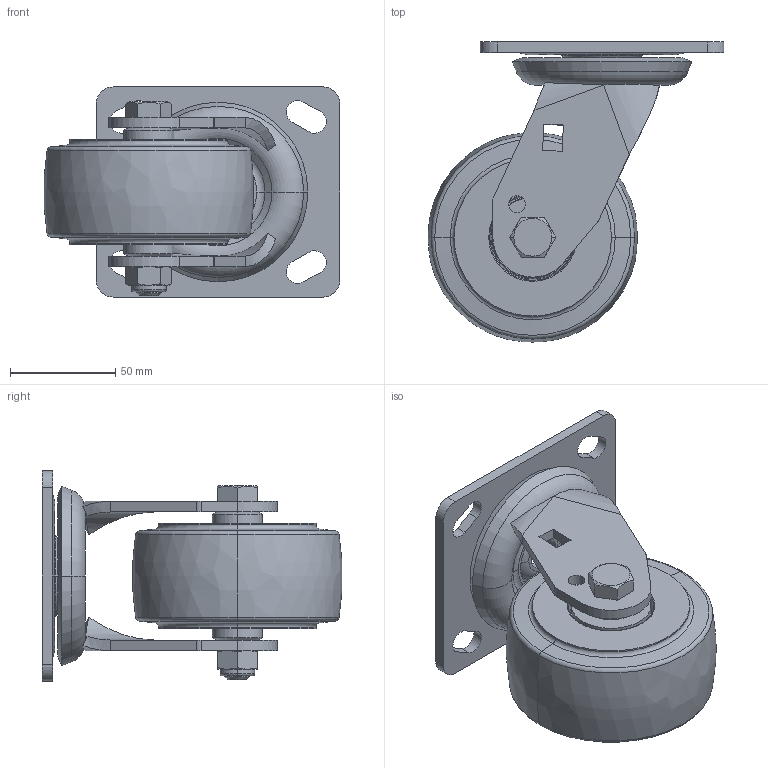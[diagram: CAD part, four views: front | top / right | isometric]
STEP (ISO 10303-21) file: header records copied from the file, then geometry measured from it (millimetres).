
FILE_DESCRIPTION((''),'2;1');
FILE_NAME('S75714_ASM','2026-07-17T',('Lenovo'),(''),'PRO/ENGINEER BY PARAMETRIC TECHNOLOGY CORPORATION, 2010280','PRO/ENGINEER BY PARAMETRIC TECHNOLOGY CORPORATION, 2010280','');
FILE_SCHEMA(('CONFIG_CONTROL_DESIGN'));
Length unit declared in the file: millimetre
Products named in the file (11): S7504-353; S7570-201; S7500-211; 734-986; 6203; 700-67; 700-54; 734-86_ASM; 700-33; 700-34; S75714_ASM
Assembly tree (12 placements, depth 3):
  S75714_ASM
    S7504-353
    S7570-201
    S7500-211
    734-86_ASM
      734-986
      6203  x2
      700-67  x2
      700-54
    700-33
    700-34
Bounding box: 140.83 x 142.83 x 100 mm (x, y, z)
Volume: 479001.4 mm3; surface area: 124839.2 mm2
Topology: 38 solids, 38 shells, 359 faces, 818 edges, 456 vertices
Faces by surface type: cylinder 104, plane 85, torus 66, sphere 48, cone 46, bspline 10
Entity records: 8686 total; most frequent: CARTESIAN_POINT 1904, DIRECTION 1540, ORIENTED_EDGE 1228, AXIS2_PLACEMENT_3D 654, EDGE_CURVE 614, VERTEX_POINT 382, EDGE_LOOP 344, CIRCLE 342
